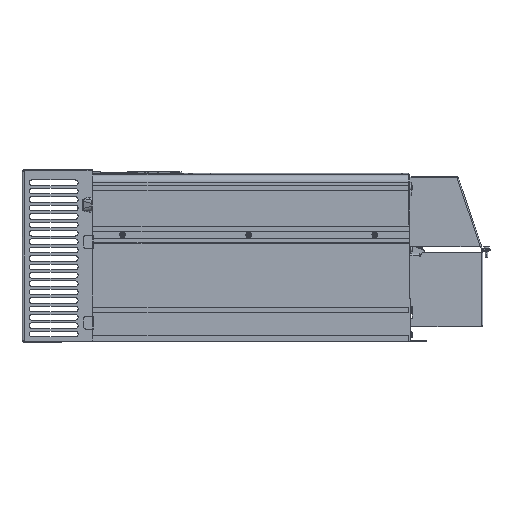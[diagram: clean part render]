
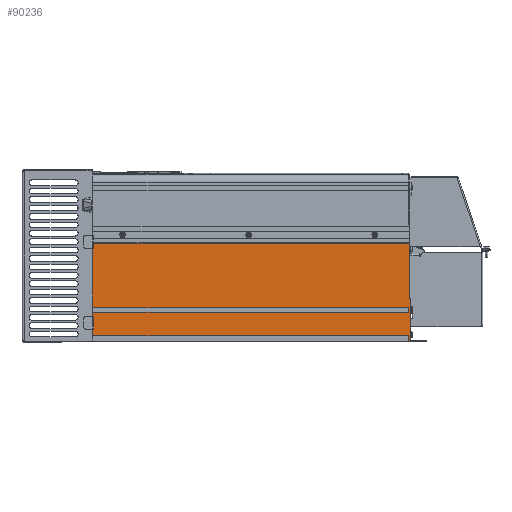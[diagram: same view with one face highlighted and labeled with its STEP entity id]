
A CAD part, left-side view. The second image highlights one B-rep face of the part: STEP entity #90236.
In plain terms, the highlighted planar face has unit normal (-1, 0, 0).
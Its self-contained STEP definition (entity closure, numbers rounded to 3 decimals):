
#1371=DIRECTION('',(0.,0.,1.));
#1372=VECTOR('',#1371,8.);
#1373=CARTESIAN_POINT('',(-115.,-227.95,1.1));
#1374=LINE('',#1373,#1372);
#1395=DIRECTION('',(0.,0.,1.));
#1396=VECTOR('',#1395,6.6);
#1397=CARTESIAN_POINT('',(-115.,-227.95,42.1));
#1398=LINE('',#1397,#1396);
#3220=DIRECTION('',(0.,-1.,0.));
#3221=VECTOR('',#3220,1.);
#3222=CARTESIAN_POINT('',(-115.,-229.45,62.5));
#3223=LINE('',#3222,#3221);
#3224=DIRECTION('',(0.,0.,-1.));
#3225=VECTOR('',#3224,60.);
#3226=CARTESIAN_POINT('',(-115.,-230.45,62.5));
#3227=LINE('',#3226,#3225);
#3228=DIRECTION('',(0.,-1.,0.));
#3229=VECTOR('',#3228,17.8);
#3230=CARTESIAN_POINT('',(-115.,-230.45,2.5));
#3231=LINE('',#3230,#3229);
#3232=DIRECTION('',(0.,0.,1.));
#3233=VECTOR('',#3232,2.5);
#3234=CARTESIAN_POINT('',(-115.,-248.25,0.));
#3235=LINE('',#3234,#3233);
#3236=DIRECTION('',(0.,0.,1.));
#3237=VECTOR('',#3236,1.);
#3238=CARTESIAN_POINT('',(-115.,211.75,0.));
#3239=LINE('',#3238,#3237);
#3240=DIRECTION('',(0.,1.,0.));
#3241=VECTOR('',#3240,12.);
#3242=CARTESIAN_POINT('',(-115.,211.75,1.));
#3243=LINE('',#3242,#3241);
#3244=DIRECTION('',(0.,0.,1.));
#3245=VECTOR('',#3244,1.);
#3246=CARTESIAN_POINT('',(-115.,223.75,0.));
#3247=LINE('',#3246,#3245);
#3248=DIRECTION('',(0.,-1.,0.));
#3249=VECTOR('',#3248,451.7);
#3250=CARTESIAN_POINT('',(-115.,223.75,1.1));
#3251=LINE('',#3250,#3249);
#3252=DIRECTION('',(0.,-1.,0.));
#3253=VECTOR('',#3252,451.7);
#3254=CARTESIAN_POINT('',(-115.,223.75,9.1));
#3255=LINE('',#3254,#3253);
#3256=DIRECTION('',(0.,0.,-1.));
#3257=VECTOR('',#3256,12.4);
#3258=CARTESIAN_POINT('',(-115.,223.75,21.5));
#3259=LINE('',#3258,#3257);
#3260=DIRECTION('',(0.,0.,-1.));
#3261=VECTOR('',#3260,8.6);
#3262=CARTESIAN_POINT('',(-115.,223.75,42.1));
#3263=LINE('',#3262,#3261);
#3264=DIRECTION('',(0.,-1.,0.));
#3265=VECTOR('',#3264,451.7);
#3266=CARTESIAN_POINT('',(-115.,223.75,42.1));
#3267=LINE('',#3266,#3265);
#3268=DIRECTION('',(0.,-1.,0.));
#3269=VECTOR('',#3268,451.7);
#3270=CARTESIAN_POINT('',(-115.,223.75,48.7));
#3271=LINE('',#3270,#3269);
#3272=DIRECTION('',(0.,0.,-1.));
#3273=VECTOR('',#3272,87.8);
#3274=CARTESIAN_POINT('',(-115.,223.75,136.5));
#3275=LINE('',#3274,#3273);
#4208=DIRECTION('',(0.,0.,-1.));
#4209=VECTOR('',#4208,12.);
#4210=CARTESIAN_POINT('',(-115.,223.75,33.5));
#4211=LINE('',#4210,#4209);
#4608=DIRECTION('',(0.,0.,1.));
#4609=VECTOR('',#4608,1.4);
#4610=CARTESIAN_POINT('',(-115.,223.75,1.1));
#4611=LINE('',#4610,#4609);
#4710=DIRECTION('',(0.,0.,-1.));
#4711=VECTOR('',#4710,4.6);
#4712=CARTESIAN_POINT('',(-115.,223.75,141.1));
#4713=LINE('',#4712,#4711);
#13709=DIRECTION('',(0.,0.,-1.));
#13710=VECTOR('',#13709,78.6);
#13711=CARTESIAN_POINT('',(-115.,-229.45,141.1));
#13712=LINE('',#13711,#13710);
#16495=DIRECTION('',(0.,1.,0.));
#16496=VECTOR('',#16495,33.);
#16497=CARTESIAN_POINT('',(-115.,226.75,2.5));
#16498=LINE('',#16497,#16496);
#16835=DIRECTION('',(0.,1.,0.));
#16836=VECTOR('',#16835,453.2);
#16837=CARTESIAN_POINT('',(-115.,-229.45,141.1));
#16838=LINE('',#16837,#16836);
#17123=DIRECTION('',(0.,1.,0.));
#17124=VECTOR('',#17123,3.);
#17125=CARTESIAN_POINT('',(-115.,223.75,2.5));
#17126=LINE('',#17125,#17124);
#35178=DIRECTION('',(0.,0.,1.));
#35179=VECTOR('',#35178,2.5);
#35180=CARTESIAN_POINT('',(-115.,259.75,0.));
#35181=LINE('',#35180,#35179);
#35238=DIRECTION('',(0.,-1.,0.));
#35239=VECTOR('',#35238,36.);
#35240=CARTESIAN_POINT('',(-115.,259.75,0.));
#35241=LINE('',#35240,#35239);
#35282=DIRECTION('',(0.,-1.,0.));
#35283=VECTOR('',#35282,460.);
#35284=CARTESIAN_POINT('',(-115.,211.75,0.));
#35285=LINE('',#35284,#35283);
#71901=CARTESIAN_POINT('',(-115.,223.75,136.5));
#71902=VERTEX_POINT('',#71901);
#71973=CARTESIAN_POINT('',(-115.,223.75,21.5));
#71975=VERTEX_POINT('',#71973);
#71977=CARTESIAN_POINT('',(-115.,223.75,33.5));
#71979=VERTEX_POINT('',#71977);
#73660=CARTESIAN_POINT('',(-115.,223.75,9.1));
#73661=VERTEX_POINT('',#73660);
#73666=CARTESIAN_POINT('',(-115.,223.75,141.1));
#73667=VERTEX_POINT('',#73666);
#73716=CARTESIAN_POINT('',(-115.,259.75,0.));
#73718=VERTEX_POINT('',#73716);
#73726=CARTESIAN_POINT('',(-115.,259.75,2.5));
#73728=VERTEX_POINT('',#73726);
#73734=CARTESIAN_POINT('',(-115.,226.75,2.5));
#73735=VERTEX_POINT('',#73734);
#73740=CARTESIAN_POINT('',(-115.,223.75,1.1));
#73741=CARTESIAN_POINT('',(-115.,223.75,2.5));
#73742=VERTEX_POINT('',#73740);
#73743=VERTEX_POINT('',#73741);
#73772=CARTESIAN_POINT('',(-115.,-227.95,1.1));
#73773=CARTESIAN_POINT('',(-115.,-227.95,9.1));
#73774=VERTEX_POINT('',#73772);
#73775=VERTEX_POINT('',#73773);
#73812=CARTESIAN_POINT('',(-115.,-248.25,2.5));
#73814=VERTEX_POINT('',#73812);
#73818=CARTESIAN_POINT('',(-115.,-248.25,0.));
#73819=VERTEX_POINT('',#73818);
#73828=CARTESIAN_POINT('',(-115.,-230.45,2.5));
#73829=VERTEX_POINT('',#73828);
#73876=CARTESIAN_POINT('',(-115.,-230.45,62.5));
#73877=VERTEX_POINT('',#73876);
#75074=CARTESIAN_POINT('',(-115.,223.75,48.7));
#75075=VERTEX_POINT('',#75074);
#75080=CARTESIAN_POINT('',(-115.,223.75,42.1));
#75081=VERTEX_POINT('',#75080);
#75090=CARTESIAN_POINT('',(-115.,-227.95,42.1));
#75091=CARTESIAN_POINT('',(-115.,-227.95,48.7));
#75092=VERTEX_POINT('',#75090);
#75093=VERTEX_POINT('',#75091);
#76694=CARTESIAN_POINT('',(-115.,211.75,1.));
#76695=CARTESIAN_POINT('',(-115.,223.75,1.));
#76696=VERTEX_POINT('',#76694);
#76697=VERTEX_POINT('',#76695);
#76698=CARTESIAN_POINT('',(-115.,211.75,0.));
#76699=VERTEX_POINT('',#76698);
#76700=CARTESIAN_POINT('',(-115.,223.75,0.));
#76701=VERTEX_POINT('',#76700);
#82064=CARTESIAN_POINT('',(-115.,-229.45,141.1));
#82065=VERTEX_POINT('',#82064);
#82132=CARTESIAN_POINT('',(-115.,-229.45,62.5));
#82134=VERTEX_POINT('',#82132);
#90180=CARTESIAN_POINT('',(-115.,223.75,227.));
#90181=DIRECTION('',(-1.,0.,0.));
#90182=DIRECTION('',(0.,0.,-1.));
#90183=AXIS2_PLACEMENT_3D('',#90180,#90181,#90182);
#90184=PLANE('',#90183);
#90186=ORIENTED_EDGE('',*,*,#90185,.F.);
#90188=ORIENTED_EDGE('',*,*,#90187,.T.);
#90190=ORIENTED_EDGE('',*,*,#90189,.T.);
#90191=ORIENTED_EDGE('',*,*,#86229,.T.);
#90193=ORIENTED_EDGE('',*,*,#90192,.T.);
#90195=ORIENTED_EDGE('',*,*,#90194,.F.);
#90197=ORIENTED_EDGE('',*,*,#90196,.F.);
#90199=ORIENTED_EDGE('',*,*,#90198,.T.);
#90201=ORIENTED_EDGE('',*,*,#90200,.T.);
#90203=ORIENTED_EDGE('',*,*,#90202,.F.);
#90205=ORIENTED_EDGE('',*,*,#90204,.F.);
#90207=ORIENTED_EDGE('',*,*,#90206,.T.);
#90209=ORIENTED_EDGE('',*,*,#90208,.F.);
#90211=ORIENTED_EDGE('',*,*,#90210,.F.);
#90213=ORIENTED_EDGE('',*,*,#90212,.F.);
#90215=ORIENTED_EDGE('',*,*,#90214,.T.);
#90216=ORIENTED_EDGE('',*,*,#86460,.T.);
#90218=ORIENTED_EDGE('',*,*,#90217,.F.);
#90220=ORIENTED_EDGE('',*,*,#90219,.F.);
#90222=ORIENTED_EDGE('',*,*,#90221,.F.);
#90224=ORIENTED_EDGE('',*,*,#90223,.F.);
#90226=ORIENTED_EDGE('',*,*,#90225,.T.);
#90227=ORIENTED_EDGE('',*,*,#86506,.T.);
#90229=ORIENTED_EDGE('',*,*,#90228,.F.);
#90231=ORIENTED_EDGE('',*,*,#90230,.F.);
#90233=ORIENTED_EDGE('',*,*,#90232,.F.);
#90234=EDGE_LOOP('',(#90186,#90188,#90190,#90191,#90193,#90195,#90197,#90199,
#90201,#90203,#90205,#90207,#90209,#90211,#90213,#90215,#90216,#90218,#90220,
#90222,#90224,#90226,#90227,#90229,#90231,#90233));
#90235=FACE_OUTER_BOUND('',#90234,.F.);
#90236=ADVANCED_FACE('',(#90235),#90184,.T.);
#86229=EDGE_CURVE('',#73877,#73829,#3227,.T.);
#86460=EDGE_CURVE('',#73774,#73775,#1374,.T.);
#86506=EDGE_CURVE('',#75092,#75093,#1398,.T.);
#90185=EDGE_CURVE('',#82065,#73667,#16838,.T.);
#90187=EDGE_CURVE('',#82065,#82134,#13712,.T.);
#90189=EDGE_CURVE('',#82134,#73877,#3223,.T.);
#90192=EDGE_CURVE('',#73829,#73814,#3231,.T.);
#90194=EDGE_CURVE('',#73819,#73814,#3235,.T.);
#90196=EDGE_CURVE('',#76699,#73819,#35285,.T.);
#90198=EDGE_CURVE('',#76699,#76696,#3239,.T.);
#90200=EDGE_CURVE('',#76696,#76697,#3243,.T.);
#90202=EDGE_CURVE('',#76701,#76697,#3247,.T.);
#90204=EDGE_CURVE('',#73718,#76701,#35241,.T.);
#90206=EDGE_CURVE('',#73718,#73728,#35181,.T.);
#90208=EDGE_CURVE('',#73735,#73728,#16498,.T.);
#90210=EDGE_CURVE('',#73743,#73735,#17126,.T.);
#90212=EDGE_CURVE('',#73742,#73743,#4611,.T.);
#90214=EDGE_CURVE('',#73742,#73774,#3251,.T.);
#90217=EDGE_CURVE('',#73661,#73775,#3255,.T.);
#90219=EDGE_CURVE('',#71975,#73661,#3259,.T.);
#90221=EDGE_CURVE('',#71979,#71975,#4211,.T.);
#90223=EDGE_CURVE('',#75081,#71979,#3263,.T.);
#90225=EDGE_CURVE('',#75081,#75092,#3267,.T.);
#90228=EDGE_CURVE('',#75075,#75093,#3271,.T.);
#90230=EDGE_CURVE('',#71902,#75075,#3275,.T.);
#90232=EDGE_CURVE('',#73667,#71902,#4713,.T.);
